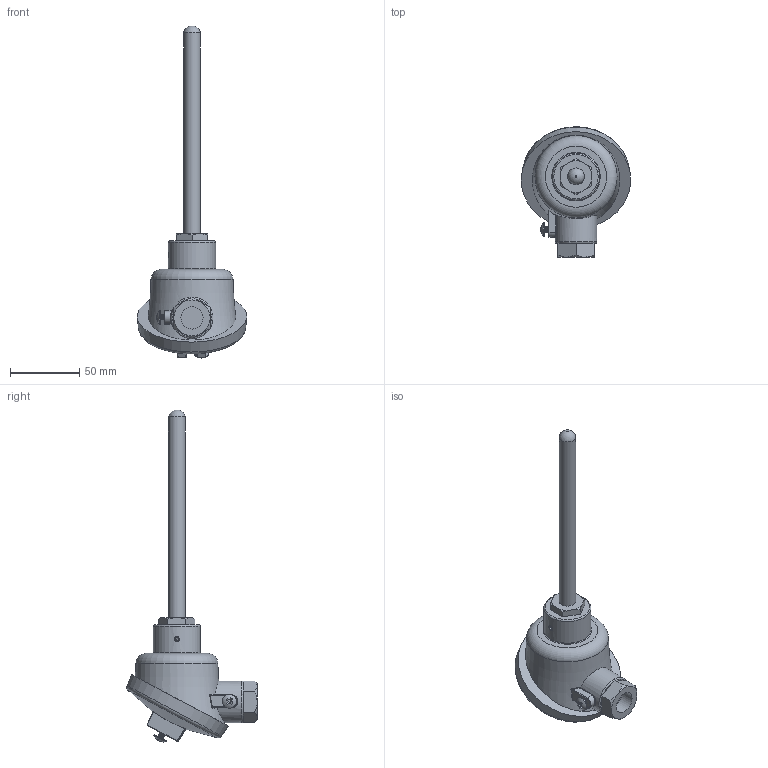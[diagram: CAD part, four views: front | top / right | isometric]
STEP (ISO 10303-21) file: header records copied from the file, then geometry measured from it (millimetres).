
FILE_DESCRIPTION (( 'STEP AP203' ), '1' );
FILE_NAME ('YIT35-6(0).STEP', '2025-03-19T08:18:06', ( '' ), ( '' ), 'SwSTEP 2.0', 'SolidWorks 2021', '' );
FILE_SCHEMA (( 'CONFIG_CONTROL_DESIGN' ));
Length unit declared in the file: millimetre
Products named in the file (1): YIT35-6(0)
Bounding box: 78.98 x 94.09 x 239.52 mm (x, y, z)
Volume: 215317.5 mm3; surface area: 31035.7 mm2
Topology: 1 solids, 2 shells, 195 faces, 478 edges, 296 vertices
Faces by surface type: plane 86, cylinder 47, bspline 24, cone 18, torus 12, sphere 8
Full cylindrical faces by diameter (mm): 3.5 x4, 3.6 x1, 3.8 x10, 10 x2, 12 x1, 16 x1, 18.6 x1, 20.5 x1, 30 x1, 34 x1
Entity records: 8334 total; most frequent: CARTESIAN_POINT 4581, ORIENTED_EDGE 768, DIRECTION 692, EDGE_CURVE 384, AXIS2_PLACEMENT_3D 269, VERTEX_POINT 247, EDGE_LOOP 223, FACE_OUTER_BOUND 202
